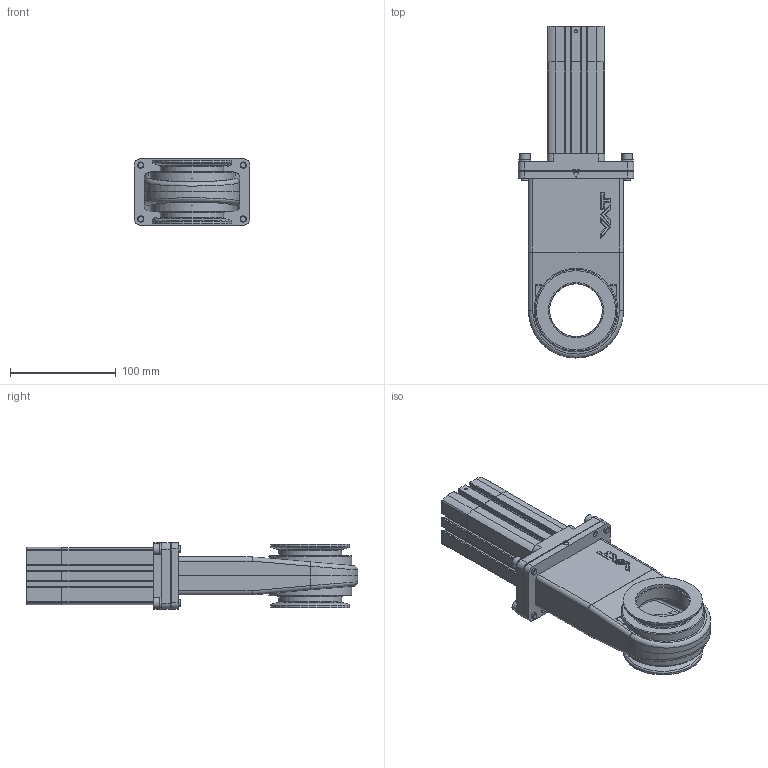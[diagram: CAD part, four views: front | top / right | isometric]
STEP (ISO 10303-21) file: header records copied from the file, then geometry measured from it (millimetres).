
FILE_DESCRIPTION(/* description */ (''),/* implementation_level */ '2;1');
FILE_NAME(/* name */ '1123550335_203.stp',/* time_stamp */ '2013-09-13T11:17:36+02:00',/* author */ (''),/* organization */ (''),/* preprocessor_version */ 'ST-DEVELOPER v11',/* originating_system */ 'SIEMENS PLM Software NX 7.5',/* authorisation */ '');
FILE_SCHEMA (('AP203_CONFIGURATION_CONTROLLED_3D_DESIGN_OF_MECHANICAL_PARTS_AND_ASSEMBLIES_MIM_LF'));
Length unit declared in the file: millimetre
Products named in the file (14): 350432.7_18297ID; 350432.7_18301ID; 350540.2_18299ID; 527408; 351562.6_18295ID; 351562.6_18249ID; 218189; n-6134-408; 351709.1; 350482.2; 527460_MODELNX-ARRAGMNTMassbild; 351438.6_NX-ARRAGMNTGrundgehaeuse_kpl_ORIGINAL; 351568.10; 704211
Assembly tree (19 placements, depth 4):
  704211
    350482.2
    351709.1
    n-6134-408  x4
    218189  x4
    351568.10
      351562.6_18249ID
      351562.6_18295ID
      351438.6_NX-ARRAGMNTGrundgehaeuse_kpl_ORIGINAL
        350540.2_18299ID
        350432.7_18301ID
        350432.7_18297ID
    527460_MODELNX-ARRAGMNTMassbild
      527408
Bounding box: 109.5 x 314.35 x 63.15 mm (x, y, z)
Volume: 437794.6 mm3; surface area: 221177.8 mm2
Topology: 24 solids, 25 shells, 1021 faces, 2717 edges, 1802 vertices
Faces by surface type: plane 568, cylinder 321, cone 60, extrusion 23, bspline 22, torus 15, sphere 12
Full cylindrical faces by diameter (mm): 1 x4, 1.1 x1, 1.2 x2, 1.4 x1, 2 x1, 2.5 x4, 2.85 x3, 3 x1, 4.2 x2, 4.96 x4, 5 x14, 5.2 x2, 5.22 x4, 5.774 x1, 6 x8, 6.4 x4, 6.5 x8, 6.8 x1, 7 x1, 8.1 x1, 8.3 x2, 8.5 x2, 8.566 x1, 9.6 x4, 10 x9, 10.4 x1, 11 x5, 11.9 x2, 12.8 x4, 13.7 x1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
Entity records: 33617 total; most frequent: CARTESIAN_POINT 9123, ORIENTED_EDGE 4686, DIRECTION 4415, EDGE_CURVE 2343, AXIS2_PLACEMENT_3D 1667, VERTEX_POINT 1660, EDGE_LOOP 1281, VECTOR 1081
